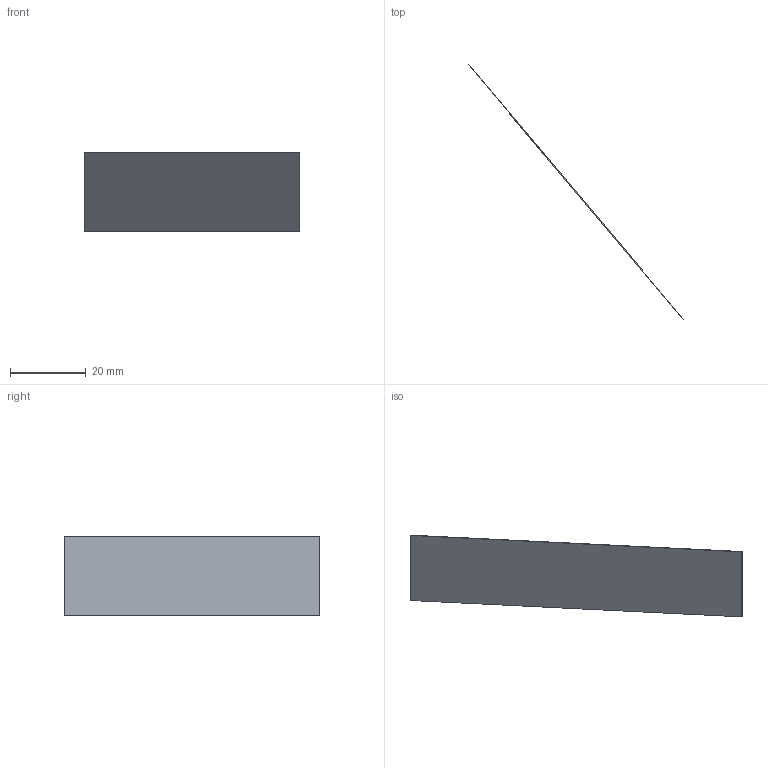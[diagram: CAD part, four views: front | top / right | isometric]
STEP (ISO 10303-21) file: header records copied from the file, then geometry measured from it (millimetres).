
FILE_DESCRIPTION(('Open CASCADE Model'),'2;1');
FILE_NAME('Open CASCADE Shape Model','2026-10-04T01:02:36',('Author'),( 'Open CASCADE'),'Open CASCADE STEP processor 8.0','Open CASCADE 8.0' ,'Unknown');
FILE_SCHEMA(('AUTOMOTIVE_DESIGN { 1 0 10303 214 1 1 1 1 }'));
Length unit declared in the file: millimetre
Products named in the file (1): Open CASCADE STEP translator 8.0 398
Bounding box: 56.71 x 67.28 x 21 mm (x, y, z)
Volume: 276.7 mm3; surface area: 3722 mm2
Topology: 1 solids, 1 shells, 6 faces, 12 edges, 8 vertices
Faces by surface type: plane 6
Entity records: 322 total; most frequent: CARTESIAN_POINT 51, DIRECTION 50, LINE 36, VECTOR 36, ORIENTED_EDGE 24, PCURVE 24, DEFINITIONAL_REPRESENTATION 24, EDGE_CURVE 12
